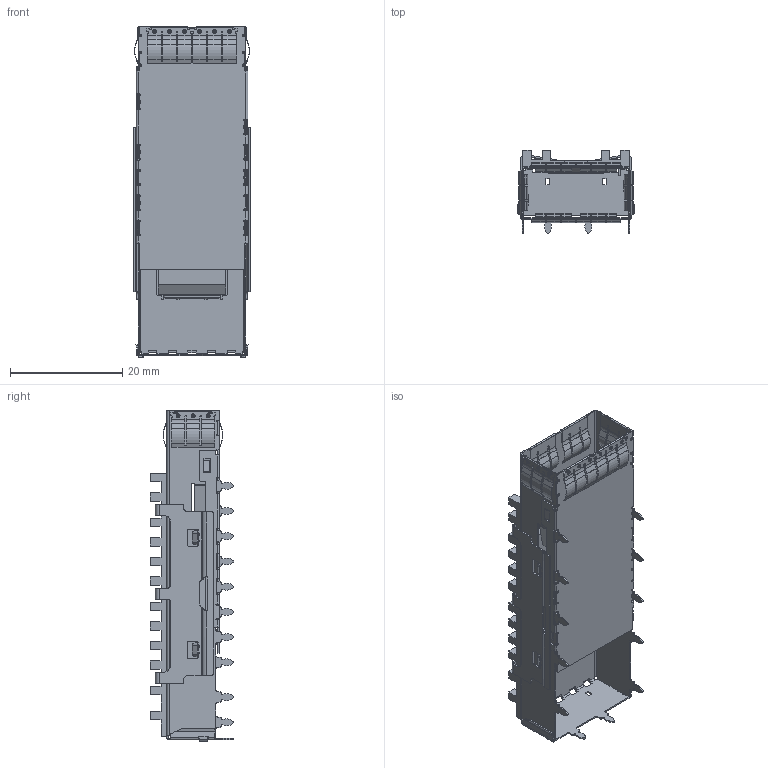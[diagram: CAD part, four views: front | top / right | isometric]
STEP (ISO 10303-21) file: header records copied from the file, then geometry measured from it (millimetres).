
FILE_DESCRIPTION (( 'STEP AP214' ), '1' );
FILE_NAME ('SQ10-0100060000-0000-X.STEP', '2021-06-17T03:18:48', ( '' ), ( '' ), 'SwSTEP 2.0', 'SolidWorks 2012', '' );
FILE_SCHEMA (( 'AUTOMOTIVE_DESIGN' ));
Length unit declared in the file: millimetre
Products named in the file (7): HS1-SH10_w\Lightpipe height 2.9; SQ10-S110-1_WO 導光體-2.25-2back Leg-方孔 assy; SQ10-0100060000-0000-X; SZ10-S120_ass''y for SQ10 Type A; SZ10-S130_1x1 top&bottom spring ass''y; HS1-S110_after change; SZ10-S130_1xN side spring ass''y
Assembly tree (8 placements, depth 2):
  SQ10-0100060000-0000-X
    SQ10-S110-1_WO 導光體-2.25-2back Leg-方孔 assy
    SZ10-S120_ass''y for SQ10 Type A
    SZ10-S130_1x1 top&bottom spring ass''y  x2
    SZ10-S130_1xN side spring ass''y  x2
    HS1-SH10_w\Lightpipe height 2.9
    HS1-S110_after change
Bounding box: 20.81 x 14.85 x 58.98 mm (x, y, z)
Volume: 2365.2 mm3; surface area: 10910.5 mm2
Topology: 8 solids, 8 shells, 2681 faces, 6968 edges, 4252 vertices
Faces by surface type: plane 1577, cylinder 924, sphere 72, torus 72, bspline 36
Entity records: 67727 total; most frequent: CARTESIAN_POINT 12580, ORIENTED_EDGE 11590, DIRECTION 11583, EDGE_CURVE 5795, LINE 3981, VECTOR 3981, AXIS2_PLACEMENT_3D 3801, VERTEX_POINT 3580
